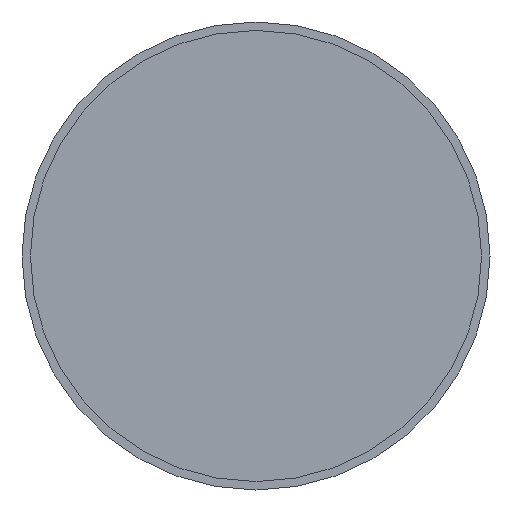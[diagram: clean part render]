
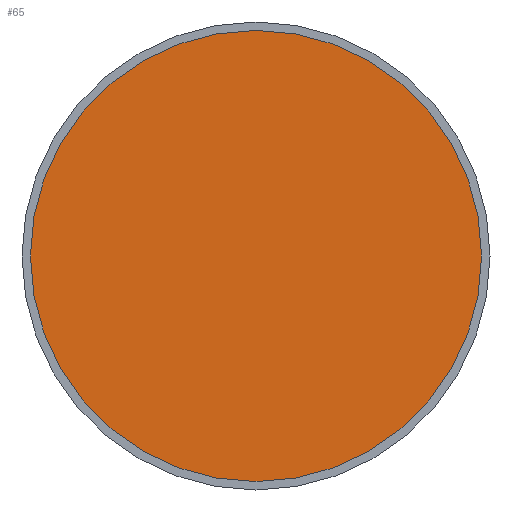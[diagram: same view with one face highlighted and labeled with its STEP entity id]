
A CAD part, left-side view. The second image highlights one B-rep face of the part: STEP entity #65.
In plain terms, the highlighted planar face has unit normal (-1, 0, 0).
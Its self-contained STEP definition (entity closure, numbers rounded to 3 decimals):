
#5 = DIRECTION ( 'NONE',  ( -1., 0., 0. ) ) ;
#17 = FACE_OUTER_BOUND ( 'NONE', #23, .T. ) ;
#23 = EDGE_LOOP ( 'NONE', ( #91 ) ) ;
#35 = CIRCLE ( 'NONE', #90, 4. ) ;
#44 = PLANE ( 'NONE',  #112 ) ;
#46 = EDGE_CURVE ( 'NONE', #85, #85, #35, .T. ) ;
#48 = CARTESIAN_POINT ( 'NONE',  ( -55., -4., 0. ) ) ;
#65 = ADVANCED_FACE ( 'NONE', ( #17 ), #44, .T. ) ;
#73 = DIRECTION ( 'NONE',  ( -1., 0., 0. ) ) ;
#75 = CARTESIAN_POINT ( 'NONE',  ( -55., 0., 4. ) ) ;
#83 = CARTESIAN_POINT ( 'NONE',  ( -55., 0., 0. ) ) ;
#85 = VERTEX_POINT ( 'NONE', #75 ) ;
#90 = AXIS2_PLACEMENT_3D ( 'NONE', #83, #5, #120 ) ;
#91 = ORIENTED_EDGE ( 'NONE', *, *, #46, .T. ) ;
#112 = AXIS2_PLACEMENT_3D ( 'NONE', #48, #73, #113 ) ;
#113 = DIRECTION ( 'NONE',  ( 0., 0., 1. ) ) ;
#120 = DIRECTION ( 'NONE',  ( 0., 0., 1. ) ) ;
